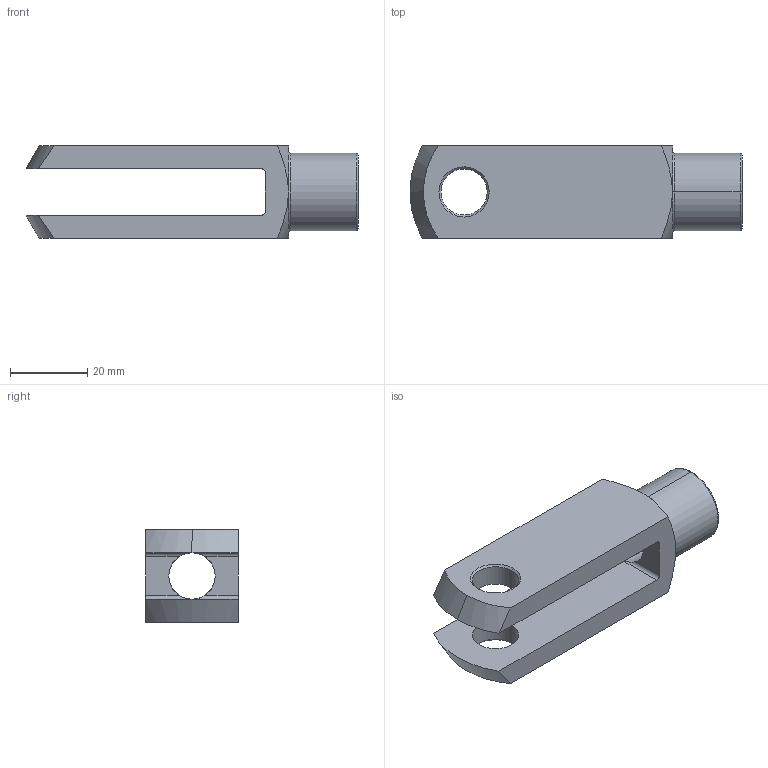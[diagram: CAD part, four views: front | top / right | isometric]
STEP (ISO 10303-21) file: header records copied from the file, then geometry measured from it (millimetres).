
FILE_DESCRIPTION (( 'STEP AP203' ), '1' );
FILE_NAME ('65635.W0124.step', '2014-01-17T13:06:10', ( 'User' ), ( '' ), 'SwSTEP 2.0', 'SolidWorks 2009', '' );
FILE_SCHEMA (( 'CONFIG_CONTROL_DESIGN' ));
Length unit declared in the file: millimetre
Products named in the file (1): 65635.W0124
Bounding box: 86 x 24 x 24 mm (x, y, z)
Volume: 21947.6 mm3; surface area: 10477.3 mm2
Topology: 1 solids, 1 shells, 39 faces, 93 edges, 56 vertices
Faces by surface type: cone 13, cylinder 12, plane 10, torus 4
Entity records: 1308 total; most frequent: CARTESIAN_POINT 313, DIRECTION 201, ORIENTED_EDGE 186, EDGE_CURVE 93, AXIS2_PLACEMENT_3D 84, VERTEX_POINT 56, EDGE_LOOP 45, CIRCLE 44
